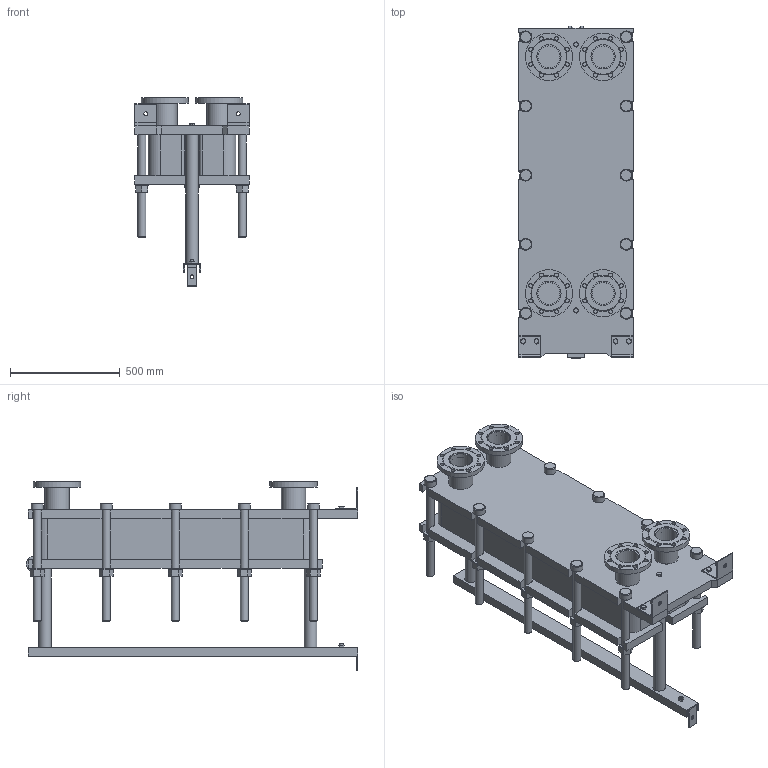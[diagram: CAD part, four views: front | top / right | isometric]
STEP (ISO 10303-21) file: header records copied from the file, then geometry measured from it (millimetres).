
FILE_DESCRIPTION(/* description */ (''),/* implementation_level */ '2;1');
FILE_NAME(/* name */ 'C:\Users\zhuro\Desktop\ENCO\TO\ЭН-04\ЭН-0,5-04-54-1.stp',/* time_stamp */ '2022-06-06T10:48:56+03:00',/* author */ ('zhuro'),/* organization */ (''),/* preprocessor_version */ 'ST-DEVELOPER v18.1',/* originating_system */ 'Autodesk Inventor 2022',/* authorisation */ '');
FILE_SCHEMA (('AUTOMOTIVE_DESIGN { 1 0 10303 214 3 1 1 }'));
Length unit declared in the file: millimetre
Products named in the file (1): ЭН-0,5-04-54-1
Bounding box: 520 x 1510 x 862 mm (x, y, z)
Volume: 161834151 mm3; surface area: 7343717.6 mm2
Topology: 45 solids, 45 shells, 668 faces, 1611 edges, 1048 vertices
Faces by surface type: plane 457, cylinder 166, cone 39, torus 6
Full cylindrical faces by diameter (mm): 8 x4, 10 x2, 16 x8, 18 x35, 36 x25, 40 x2, 42 x1, 45 x4, 54 x10, 57 x2, 60 x10, 68 x2, 100 x4, 110 x8, 215 x4
Entity records: 23607 total; most frequent: CARTESIAN_POINT 7348, DIRECTION 3371, ORIENTED_EDGE 3142, EDGE_CURVE 1571, AXIS2_PLACEMENT_3D 1199, VERTEX_POINT 1044, LINE 973, VECTOR 973
